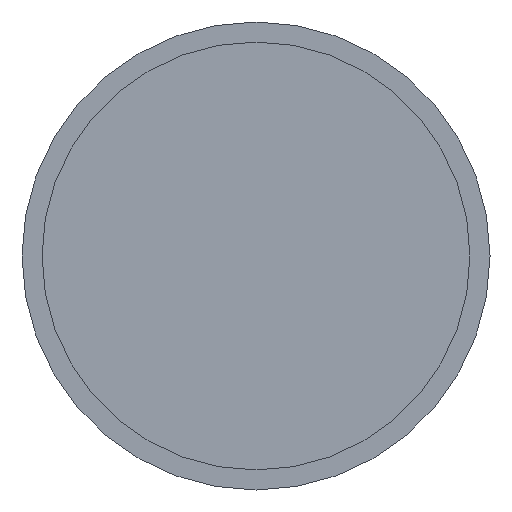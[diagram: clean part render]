
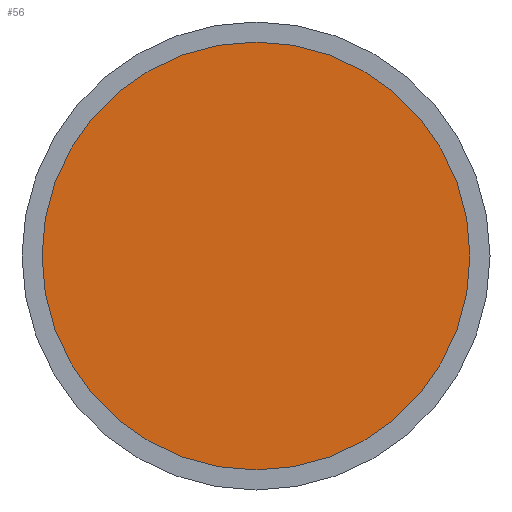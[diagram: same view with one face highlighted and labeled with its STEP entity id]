
A CAD part, front view. The second image highlights one B-rep face of the part: STEP entity #56.
In plain terms, the highlighted planar face has unit normal (0, -1, 0).
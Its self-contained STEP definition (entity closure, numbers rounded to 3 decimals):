
#56=ADVANCED_FACE('',(#93),#95,.T.);
#93=FACE_BOUND('',#94,.T.);
#94=EDGE_LOOP('',(#204));
#95=PLANE('',#96);
#96=AXIS2_PLACEMENT_3D('',#97,#98,#99);
#97=CARTESIAN_POINT('',(0.,-63.,0.));
#98=DIRECTION('',(0.,-1.,0.));
#99=DIRECTION('',(0.,0.,-1.));
#204=ORIENTED_EDGE('',*,*,#229,.T.);
#229=EDGE_CURVE('',#244,#244,#245,.T.);
#244=VERTEX_POINT('',#274);
#245=CIRCLE('',#275,16.);
#274=CARTESIAN_POINT('',(0.,-63.,16.));
#275=AXIS2_PLACEMENT_3D('',#276,#277,#278);
#276=CARTESIAN_POINT('',(0.,-63.,0.));
#277=DIRECTION('',(0.,-1.,0.));
#278=DIRECTION('',(0.,0.,1.));
